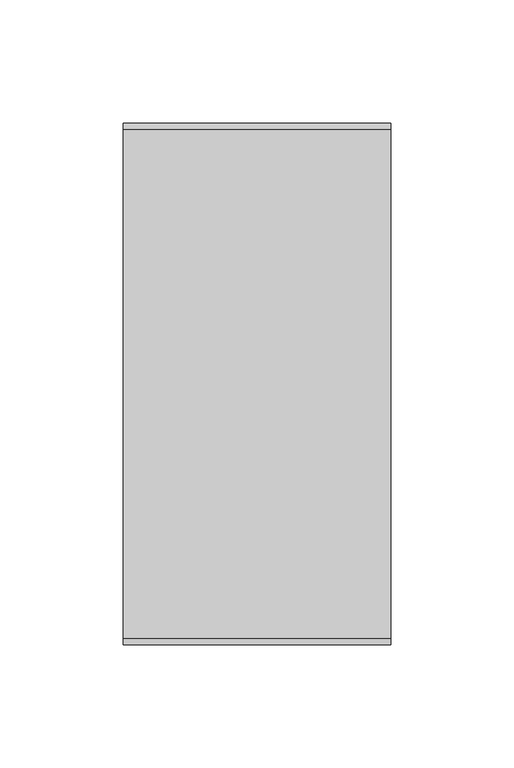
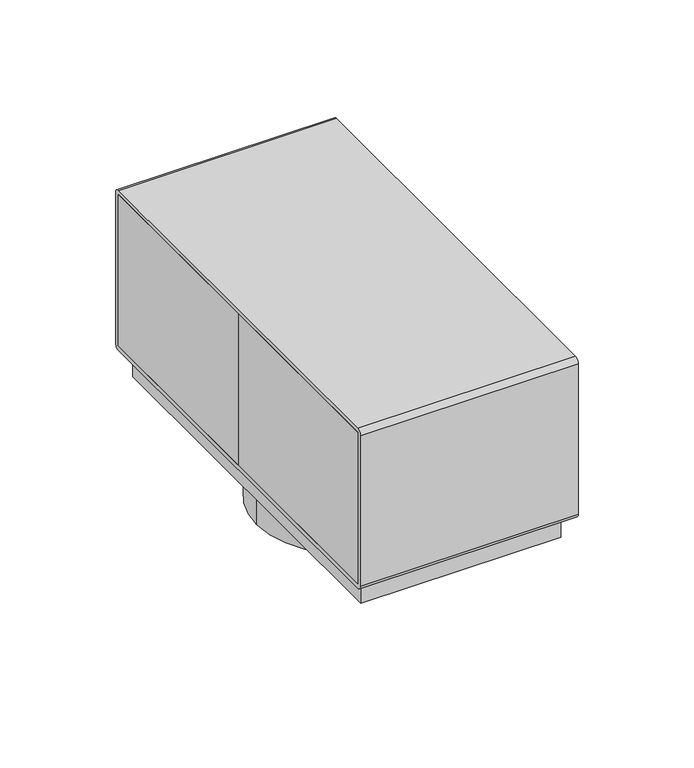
"""IFC4 building model written with IfcOpenShell, lengths in millimetres: proxy geometry, Electrical_Installation_Hager_VE-EE_Pedestal-box-4 : GB pedestal box 4 inst. fields iron gray."""

from ifc_helpers import new_model, si_unit, point, frame, frame_2d, origin, origin_with_axes, origin_2d, place, context, project, spatial, polyline, circle_curve, trimmed, segment, composite_curve, outline, extrude, source, transform, mapped, element, save


def electrical_fixtures_8ed366d0(model_context):
    return source(origin(), model_context, "Body", "SweptSolid", [
        extrude(outline(polyline([(1.25, -0.764292), (1.25, 0.764292), (48.9, 0.764292), (48.9, -0.764292), (1.25, -0.764292)])), frame((0.0, 0.0, 14.8), z_axis=(0.0, 0.0, 1.0), x_axis=(1.0, 0.0, 0.0)), (0.0, 0.0, 1.0), 79.9),
        extrude(outline(polyline([(-1.25, 0.764292), (-1.25, -0.764292), (-48.9, -0.764292), (-48.9, 0.764292), (-1.25, 0.764292)])), frame((0.0, 0.0, 14.8), z_axis=(0.0, 0.0, 1.0), x_axis=(1.0, 0.0, 0.0)), (0.0, 0.0, 1.0), 79.9),
        extrude(outline(polyline([(-54.4, 0.0), (-54.4, 103.7), (-48.9, 103.7), (-48.9, 0.0), (-54.4, 0.0)])), frame((0.0, 0.0, 14.8), z_axis=(0.0, 0.0, 1.0), x_axis=(1.0, 0.0, 0.0)), (0.0, 0.0, 1.0), 79.9),
        extrude(outline(polyline([(-54.4, -103.7), (-54.4, 0.0), (-48.9, 0.0), (-48.9, -103.7), (-54.4, -103.7)])), frame((0.0, 0.0, 14.8), z_axis=(0.0, 0.0, 1.0), x_axis=(1.0, 0.0, 0.0)), (0.0, 0.0, 1.0), 79.9),
        extrude(outline(polyline([(54.4, 103.7), (54.4, 0.0), (48.9, 0.0), (48.9, 103.7), (54.4, 103.7)])), frame((0.0, 0.0, 14.8), z_axis=(0.0, 0.0, 1.0), x_axis=(1.0, 0.0, 0.0)), (0.0, 0.0, 1.0), 79.9),
        extrude(outline(composite_curve([segment(polyline([(-103.5, 97.0), (103.5, 97.0)]), True, "CONTINUOUS"), segment(trimmed(circle_curve(frame_2d((103.5, 94.5)), 2.5), [point((103.5, 97.0))], [point((106.0, 94.5))], False, "CARTESIAN"), True, "CONTINUOUS"), segment(polyline([(106.0, 94.5), (106.0, 15.0)]), True, "CONTINUOUS"), segment(trimmed(circle_curve(frame_2d((103.5, 15.0)), 2.5), [point((106.0, 15.0))], [point((103.5, 12.5))], False, "CARTESIAN"), True, "CONTINUOUS"), segment(polyline([(103.5, 12.5), (-103.5, 12.5)]), True, "CONTINUOUS"), segment(trimmed(circle_curve(frame_2d((-103.5, 15.0)), 2.5), [point((-103.5, 12.5))], [point((-106.0, 15.0))], False, "CARTESIAN"), True, "CONTINUOUS"), segment(polyline([(-106.0, 15.0), (-106.0, 94.5)]), True, "CONTINUOUS"), segment(trimmed(circle_curve(frame_2d((-103.5, 94.5)), 2.5), [point((-106.0, 94.5))], [point((-103.5, 97.0))], False, "CARTESIAN"), True, "CONTINUOUS")], self_intersect=False), holes=[polyline([(-103.7, 94.7), (-103.7, 14.8), (103.7, 14.8), (103.7, 94.7), (-103.7, 94.7)])]), frame((-54.4, 0.0, 0.0), z_axis=(1.0, 0.0, 0.0), x_axis=(0.0, 1.0, 0.0)), (0.0, 0.0, 1.0), 108.8),
        extrude(outline(polyline([(54.4, 0.0), (54.4, -103.7), (48.9, -103.7), (48.9, 0.0), (54.4, 0.0)])), frame((0.0, 0.0, 14.8), z_axis=(0.0, 0.0, 1.0), x_axis=(1.0, 0.0, 0.0)), (0.0, 0.0, 1.0), 79.9),
        extrude(outline(composite_curve([segment(trimmed(circle_curve(origin_2d(), 45.0), [point((-45.0, 0.0))], [point((45.0, 0.0))], False, "CARTESIAN"), True, "CONTINUOUS"), segment(trimmed(circle_curve(origin_2d(), 45.0), [point((45.0, 0.0))], [point((-45.0, 0.0))], False, "CARTESIAN"), True, "CONTINUOUS")], self_intersect=False), holes=[composite_curve([segment(trimmed(circle_curve(origin_2d(), 27.5), [point((-27.5, 0.0))], [point((27.5, 0.0))], True, "CARTESIAN"), True, "CONTINUOUS"), segment(trimmed(circle_curve(origin_2d(), 27.5), [point((27.5, 0.0))], [point((-27.5, 0.0))], True, "CARTESIAN"), True, "CONTINUOUS")], self_intersect=False)]), frame((0.0, 0.0, -20.0), z_axis=(0.0, 0.0, 1.0), x_axis=(1.0, 0.0, 0.0)), (0.0, 0.0, 1.0), 20.0),
        extrude(outline(polyline([(1.25, 103.7), (1.25, -103.7), (-1.25, -103.7), (-1.25, 103.7), (1.25, 103.7)])), frame((0.0, 0.0, 14.8), z_axis=(0.0, 0.0, 1.0), x_axis=(1.0, 0.0, 0.0)), (0.0, 0.0, 1.0), 79.9),
        extrude(outline(polyline([(50.0, -98.7), (-50.0, -98.7), (-50.0, 98.7), (50.0, 98.7), (50.0, -98.7)]), holes=[composite_curve([segment(trimmed(circle_curve(frame_2d((-28.5912964, 0.7333267)), 5.0), [point((-24.4955362, 3.6012089))], [point((-25.7234143, -3.3624335))], False, "CARTESIAN"), True, "CONTINUOUS"), segment(polyline([(-25.7234143, -3.3624335), (-34.1678222, -9.2752716)]), True, "CONTINUOUS"), segment(trimmed(circle_curve(frame_2d((-31.29994, -13.3710318)), 5.0), [point((-34.1678222, -9.2752716))], [point((-35.8979613, -15.335262))], True, "CARTESIAN"), True, "CONTINUOUS"), segment(trimmed(circle_curve(origin_2d(), 39.0363149), [point((-35.8979613, -15.335262))], [point((-26.6882584, -28.4880808))], True, "CARTESIAN"), True, "CONTINUOUS"), segment(trimmed(circle_curve(frame_2d((-23.2698699, -24.8391604)), 5.0), [point((-26.6882584, -28.4880808))], [point((-20.4019877, -28.9349206))], True, "CARTESIAN"), True, "CONTINUOUS"), segment(polyline([(-20.4019877, -28.9349206), (-11.9575798, -23.0220826)]), True, "CONTINUOUS"), segment(trimmed(circle_curve(frame_2d((-9.0896976, -27.1178428)), 5.0), [point((-11.9575798, -23.0220826))], [point((-4.9939374, -24.2499606))], False, "CARTESIAN"), True, "CONTINUOUS"), segment(polyline([(-4.9939374, -24.2499606), (3.2975997, -36.0915028)]), True, "CONTINUOUS"), segment(trimmed(circle_curve(frame_2d((7.3933599, -33.2236206)), 5.0), [point((3.2975997, -36.0915028))], [point((8.4794587, -38.1042342))], True, "CARTESIAN"), True, "CONTINUOUS"), segment(trimmed(circle_curve(origin_2d(), 39.0363149), [point((8.4794587, -38.1042342))], [point((32.906122, -21.0005004))], True, "CARTESIAN"), True, "CONTINUOUS"), segment(trimmed(circle_curve(frame_2d((28.6913131, -18.3106332)), 5.0), [point((32.906122, -21.0005004))], [point((32.7870733, -15.442751))], True, "CARTESIAN"), True, "CONTINUOUS"), segment(polyline([(32.7870733, -15.442751), (24.4955362, -3.6012089)]), True, "CONTINUOUS"), segment(trimmed(circle_curve(frame_2d((28.5912964, -0.7333267)), 5.0), [point((24.4955362, -3.6012089))], [point((25.7234143, 3.3624335))], False, "CARTESIAN"), True, "CONTINUOUS"), segment(polyline([(25.7234143, 3.3624335), (34.1678222, 9.2752716)]), True, "CONTINUOUS"), segment(trimmed(circle_curve(frame_2d((31.29994, 13.3710318)), 5.0), [point((34.1678222, 9.2752716))], [point((35.8979613, 15.335262))], True, "CARTESIAN"), True, "CONTINUOUS"), segment(trimmed(circle_curve(origin_2d(), 39.0363149), [point((35.8979613, 15.335262))], [point((26.6882584, 28.4880808))], True, "CARTESIAN"), True, "CONTINUOUS"), segment(trimmed(circle_curve(frame_2d((23.2698699, 24.8391604)), 5.0), [point((26.6882584, 28.4880808))], [point((20.4019877, 28.9349206))], True, "CARTESIAN"), True, "CONTINUOUS"), segment(polyline([(20.4019877, 28.9349206), (11.9575798, 23.0220826)]), True, "CONTINUOUS"), segment(trimmed(circle_curve(frame_2d((9.0896976, 27.1178428)), 5.0), [point((11.9575798, 23.0220826))], [point((4.9939374, 24.2499606))], False, "CARTESIAN"), True, "CONTINUOUS"), segment(polyline([(4.9939374, 24.2499606), (-3.2975997, 36.0915028)]), True, "CONTINUOUS"), segment(trimmed(circle_curve(frame_2d((-7.3933599, 33.2236206)), 5.0), [point((-3.2975997, 36.0915028))], [point((-8.4794587, 38.1042342))], True, "CARTESIAN"), True, "CONTINUOUS"), segment(trimmed(circle_curve(origin_2d(), 39.0363149), [point((-8.4794587, 38.1042342))], [point((-32.906122, 21.0005004))], True, "CARTESIAN"), True, "CONTINUOUS"), segment(trimmed(circle_curve(frame_2d((-28.6913131, 18.3106332)), 5.0), [point((-32.906122, 21.0005004))], [point((-32.7870733, 15.442751))], True, "CARTESIAN"), True, "CONTINUOUS"), segment(polyline([(-32.7870733, 15.442751), (-24.4955362, 3.6012089)]), True, "CONTINUOUS")], self_intersect=False)]), origin_with_axes(), (0.0, 0.0, 1.0), 12.5),
    ])


if __name__ == "__main__":
    model = new_model("IFC4")
    model_context = context("Model", 3, world=origin())
    ifc_project = project(units=[si_unit("LENGTHUNIT", "METRE", prefix="MILLI")], contexts=[model_context])
    site = spatial("IfcSite", under=ifc_project)
    building = spatial("IfcBuilding", under=site)
    placement = place(None, origin())
    electrical_fixtures_shape = electrical_fixtures_8ed366d0(model_context)
    element("IfcBuildingElementProxy", 1, Name="Electrical_Installation_Hager_VE-EE_Pedestal-box-4 : GB pedestal box 4 inst. fields iron gray", ObjectType="Electrical_Installation_Hager_VE-EE_Pedestal-box-4 : GB pedestal box 4 inst. fields iron gray", at=placement, inside=building, context=model_context, shape_type="MappedRepresentation", body=[
        mapped(electrical_fixtures_shape, transform((0.0, 0.0, 0.0), x_axis=(1.0, 0.0, 0.0), y_axis=(0.0, 1.0, 0.0), z_axis=(0.0, 0.0, 1.0))),
    ])
    save(model, "model.ifc")
